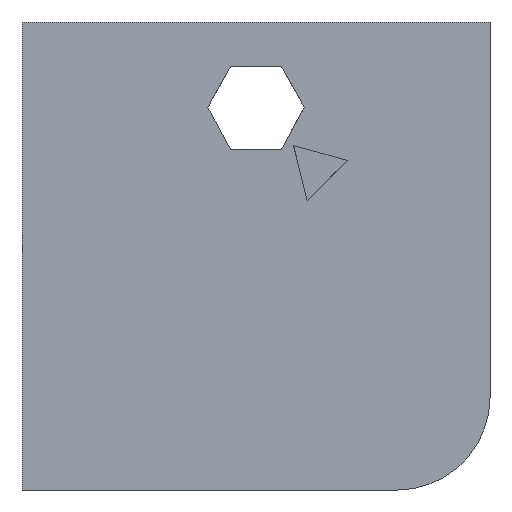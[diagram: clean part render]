
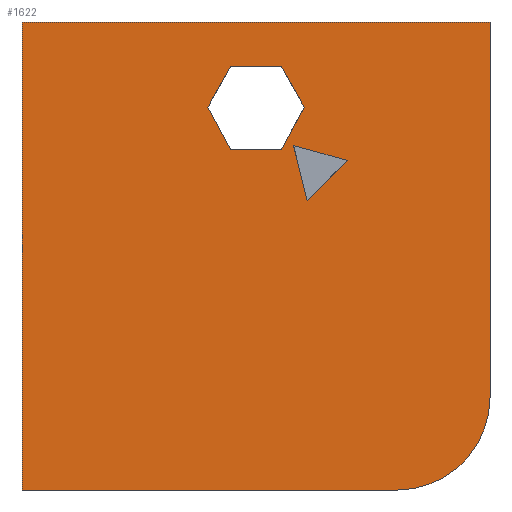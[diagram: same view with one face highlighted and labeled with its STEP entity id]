
A CAD part, left-side view. The second image highlights one B-rep face of the part: STEP entity #1622.
In plain terms, the highlighted planar face has unit normal (-1, 0, 0).
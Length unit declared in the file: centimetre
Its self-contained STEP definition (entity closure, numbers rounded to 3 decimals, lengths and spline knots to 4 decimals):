
#32 = VERTEX_POINT ( 'NONE', #2292 ) ;
#69 = CARTESIAN_POINT ( 'NONE',  ( 0., 396.9902, 818.1545 ) ) ;
#74 = PLANE ( 'NONE',  #747 ) ;
#76 = VERTEX_POINT ( 'NONE', #1511 ) ;
#81 = EDGE_CURVE ( 'NONE', #76, #878, #592, .T. ) ;
#114 = VECTOR ( 'NONE', #782, 100. ) ;
#136 = EDGE_LOOP ( 'NONE', ( #2255, #2219, #2321, #1139, #2071, #775 ) ) ;
#149 = DIRECTION ( 'NONE',  ( 0., -0.486, -0.874 ) ) ;
#155 = DIRECTION ( 'NONE',  ( 0., 0.963, 0.27 ) ) ;
#165 = EDGE_CURVE ( 'NONE', #1020, #720, #467, .T. ) ;
#222 = DIRECTION ( 'NONE',  ( 0., -1., 0. ) ) ;
#268 = VECTOR ( 'NONE', #2287, 100. ) ;
#304 = LINE ( 'NONE', #1060, #2152 ) ;
#307 = ORIENTED_EDGE ( 'NONE', *, *, #1798, .T. ) ;
#423 = VECTOR ( 'NONE', #222, 100. ) ;
#439 = ORIENTED_EDGE ( 'NONE', *, *, #661, .T. ) ;
#467 = LINE ( 'NONE', #1219, #1917 ) ;
#512 = CARTESIAN_POINT ( 'NONE',  ( 0., 445.7343, 727.444 ) ) ;
#528 = DIRECTION ( 'NONE',  ( -1., 0., 0. ) ) ;
#571 = EDGE_CURVE ( 'NONE', #1125, #598, #1496, .T. ) ;
#574 = LINE ( 'NONE', #2232, #1252 ) ;
#589 = VERTEX_POINT ( 'NONE', #2325 ) ;
#592 = LINE ( 'NONE', #763, #1031 ) ;
#598 = VERTEX_POINT ( 'NONE', #1412 ) ;
#608 = VECTOR ( 'NONE', #2257, 100. ) ;
#611 = VECTOR ( 'NONE', #155, 100. ) ;
#631 = FACE_BOUND ( 'NONE', #136, .T. ) ;
#633 = DIRECTION ( 'NONE',  ( 0., 0.473, -0.881 ) ) ;
#646 = VECTOR ( 'NONE', #1677, 100. ) ;
#651 = EDGE_CURVE ( 'NONE', #1449, #2363, #1544, .T. ) ;
#661 = EDGE_CURVE ( 'NONE', #598, #817, #2166, .T. ) ;
#667 = DIRECTION ( 'NONE',  ( 0., 0.473, 0.881 ) ) ;
#674 = CARTESIAN_POINT ( 'NONE',  ( 0., 445.7343, 905.7234 ) ) ;
#694 = EDGE_CURVE ( 'NONE', #878, #1840, #1192, .T. ) ;
#711 = LINE ( 'NONE', #512, #646 ) ;
#720 = VERTEX_POINT ( 'NONE', #1029 ) ;
#729 = CARTESIAN_POINT ( 'NONE',  ( 0., 602.8495, 818.1545 ) ) ;
#732 = LINE ( 'NONE', #1662, #611 ) ;
#741 = VECTOR ( 'NONE', #149, 100. ) ;
#747 = AXIS2_PLACEMENT_3D ( 'NONE', #1756, #803, #1930 ) ;
#763 = CARTESIAN_POINT ( 'NONE',  ( 0., 419.8673, 736.2266 ) ) ;
#764 = CARTESIAN_POINT ( 'NONE',  ( 0., 390.9572, 617.9789 ) ) ;
#767 = EDGE_CURVE ( 'NONE', #1840, #76, #732, .T. ) ;
#772 = VERTEX_POINT ( 'NONE', #2204 ) ;
#775 = ORIENTED_EDGE ( 'NONE', *, *, #1315, .T. ) ;
#776 = EDGE_CURVE ( 'NONE', #589, #32, #304, .T. ) ;
#782 = DIRECTION ( 'NONE',  ( 0., -0.707, 0.707 ) ) ;
#798 = EDGE_CURVE ( 'NONE', #720, #1449, #711, .T. ) ;
#803 = DIRECTION ( 'NONE',  ( 1., 0., 0. ) ) ;
#817 = VERTEX_POINT ( 'NONE', #904 ) ;
#850 = CARTESIAN_POINT ( 'NONE',  ( 0., 1000., 0. ) ) ;
#875 = EDGE_CURVE ( 'NONE', #1836, #772, #1883, .T. ) ;
#878 = VERTEX_POINT ( 'NONE', #764 ) ;
#904 = CARTESIAN_POINT ( 'NONE',  ( 0., 198.2583, 0. ) ) ;
#934 = AXIS2_PLACEMENT_3D ( 'NONE', #2220, #528, #1316 ) ;
#939 = CARTESIAN_POINT ( 'NONE',  ( 0., 554.1054, 905.7234 ) ) ;
#985 = ORIENTED_EDGE ( 'NONE', *, *, #694, .F. ) ;
#1007 = EDGE_LOOP ( 'NONE', ( #439, #307, #2115, #2068, #1352 ) ) ;
#1020 = VERTEX_POINT ( 'NONE', #69 ) ;
#1029 = CARTESIAN_POINT ( 'NONE',  ( 0., 445.7343, 727.444 ) ) ;
#1031 = VECTOR ( 'NONE', #1523, 100. ) ;
#1060 = CARTESIAN_POINT ( 'NONE',  ( 0., 0., 1000. ) ) ;
#1089 = VECTOR ( 'NONE', #667, 100. ) ;
#1093 = CARTESIAN_POINT ( 'NONE',  ( 0., 304.9017, 704.0345 ) ) ;
#1099 = CARTESIAN_POINT ( 'NONE',  ( 0., 1000., 1000. ) ) ;
#1125 = VERTEX_POINT ( 'NONE', #2035 ) ;
#1126 = DIRECTION ( 'NONE',  ( 0., -0.486, 0.874 ) ) ;
#1139 = ORIENTED_EDGE ( 'NONE', *, *, #1822, .T. ) ;
#1140 = CARTESIAN_POINT ( 'NONE',  ( 0., 554.1054, 905.7234 ) ) ;
#1192 = LINE ( 'NONE', #1398, #114 ) ;
#1219 = CARTESIAN_POINT ( 'NONE',  ( 0., 396.9902, 818.1545 ) ) ;
#1252 = VECTOR ( 'NONE', #1126, 100. ) ;
#1315 = EDGE_CURVE ( 'NONE', #772, #1020, #2405, .T. ) ;
#1316 = DIRECTION ( 'NONE',  ( 0., 0., -1. ) ) ;
#1352 = ORIENTED_EDGE ( 'NONE', *, *, #571, .T. ) ;
#1398 = CARTESIAN_POINT ( 'NONE',  ( 0., 390.9572, 617.9789 ) ) ;
#1412 = CARTESIAN_POINT ( 'NONE',  ( 0., 1000., 0. ) ) ;
#1449 = VERTEX_POINT ( 'NONE', #1889 ) ;
#1496 = LINE ( 'NONE', #2233, #2234 ) ;
#1511 = CARTESIAN_POINT ( 'NONE',  ( 0., 419.8673, 736.2266 ) ) ;
#1523 = DIRECTION ( 'NONE',  ( 0., -0.237, -0.971 ) ) ;
#1544 = LINE ( 'NONE', #1723, #1089 ) ;
#1558 = FACE_BOUND ( 'NONE', #1575, .T. ) ;
#1575 = EDGE_LOOP ( 'NONE', ( #985, #2366, #1772 ) ) ;
#1622 = ADVANCED_FACE ( 'NONE', ( #631, #1558, #2143 ), #74, .F. ) ;
#1662 = CARTESIAN_POINT ( 'NONE',  ( 0., 304.9017, 704.0345 ) ) ;
#1677 = DIRECTION ( 'NONE',  ( 0., 1., 0. ) ) ;
#1683 = LINE ( 'NONE', #1099, #608 ) ;
#1723 = CARTESIAN_POINT ( 'NONE',  ( 0., 554.1054, 727.444 ) ) ;
#1756 = CARTESIAN_POINT ( 'NONE',  ( 0., 1000., 1000. ) ) ;
#1772 = ORIENTED_EDGE ( 'NONE', *, *, #767, .F. ) ;
#1798 = EDGE_CURVE ( 'NONE', #817, #32, #2087, .T. ) ;
#1822 = EDGE_CURVE ( 'NONE', #2363, #1836, #574, .T. ) ;
#1836 = VERTEX_POINT ( 'NONE', #1140 ) ;
#1840 = VERTEX_POINT ( 'NONE', #1093 ) ;
#1883 = LINE ( 'NONE', #939, #423 ) ;
#1889 = CARTESIAN_POINT ( 'NONE',  ( 0., 554.1054, 727.444 ) ) ;
#1917 = VECTOR ( 'NONE', #633, 100. ) ;
#1930 = DIRECTION ( 'NONE',  ( 0., 0., -1. ) ) ;
#2024 = DIRECTION ( 'NONE',  ( 0., 0., -1. ) ) ;
#2035 = CARTESIAN_POINT ( 'NONE',  ( 0., 1000., 1000. ) ) ;
#2068 = ORIENTED_EDGE ( 'NONE', *, *, #2316, .F. ) ;
#2071 = ORIENTED_EDGE ( 'NONE', *, *, #875, .T. ) ;
#2087 = CIRCLE ( 'NONE', #934, 198.2583 ) ;
#2115 = ORIENTED_EDGE ( 'NONE', *, *, #776, .F. ) ;
#2143 = FACE_OUTER_BOUND ( 'NONE', #1007, .T. ) ;
#2152 = VECTOR ( 'NONE', #2024, 100. ) ;
#2166 = LINE ( 'NONE', #850, #268 ) ;
#2204 = CARTESIAN_POINT ( 'NONE',  ( 0., 445.7343, 905.7234 ) ) ;
#2219 = ORIENTED_EDGE ( 'NONE', *, *, #798, .T. ) ;
#2220 = CARTESIAN_POINT ( 'NONE',  ( 0., 198.2583, 198.2583 ) ) ;
#2232 = CARTESIAN_POINT ( 'NONE',  ( 0., 602.8495, 818.1545 ) ) ;
#2233 = CARTESIAN_POINT ( 'NONE',  ( 0., 1000., 1000. ) ) ;
#2234 = VECTOR ( 'NONE', #2243, 100. ) ;
#2243 = DIRECTION ( 'NONE',  ( 0., 0., -1. ) ) ;
#2255 = ORIENTED_EDGE ( 'NONE', *, *, #165, .T. ) ;
#2257 = DIRECTION ( 'NONE',  ( 0., -1., 0. ) ) ;
#2287 = DIRECTION ( 'NONE',  ( 0., -1., 0. ) ) ;
#2292 = CARTESIAN_POINT ( 'NONE',  ( 0., 0., 198.2583 ) ) ;
#2316 = EDGE_CURVE ( 'NONE', #1125, #589, #1683, .T. ) ;
#2321 = ORIENTED_EDGE ( 'NONE', *, *, #651, .T. ) ;
#2325 = CARTESIAN_POINT ( 'NONE',  ( 0., 0., 1000. ) ) ;
#2363 = VERTEX_POINT ( 'NONE', #729 ) ;
#2366 = ORIENTED_EDGE ( 'NONE', *, *, #81, .F. ) ;
#2405 = LINE ( 'NONE', #674, #741 ) ;
